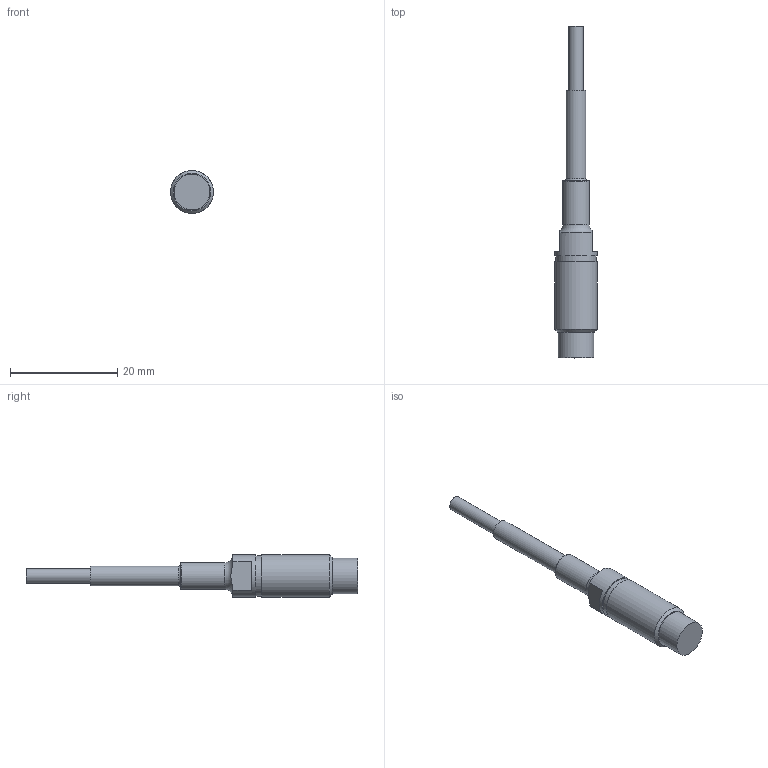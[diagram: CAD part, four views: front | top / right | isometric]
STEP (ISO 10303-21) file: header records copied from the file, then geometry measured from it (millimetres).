
FILE_DESCRIPTION( ( 'STEP AP214' ), '1' );
FILE_NAME( 'N:/Engineering/CAD_Solid/Wirbelstrom/Wirbelstromsensoren/T2/T2_S_KA.stp', '2011-12-15T11:18:07', ( ' ' ), ( ' ' ), 'XStep 1.0', ' ', ' ' );
FILE_SCHEMA( ( 'CONFIG_CONTROL_DESIGN) ( )' ) );
Length unit declared in the file: metre
Products named in the file (4): 1; 2; 3; 4
Bounding box: 8 x 61.81 x 8 mm (x, y, z)
Surface area: 1417.5 mm2 (no closed solid volume)
Topology: 0 solids, 28 shells, 28 faces, 97 edges, 83 vertices
Faces by surface type: plane 14, cylinder 9, torus 3, cone 2
Full cylindrical faces by diameter (mm): 1 x1, 2.7 x1, 3.7 x1, 5 x2, 6.7 x1, 7.5 x1, 8 x2
Entity records: 1161 total; most frequent: CARTESIAN_POINT 321, DIRECTION 186, AXIS2_PLACEMENT_3D 83, ORIENTED_EDGE 80, EDGE_CURVE 80, VERTEX_POINT 80, CIRCLE 50, FACE_BOUND 47
